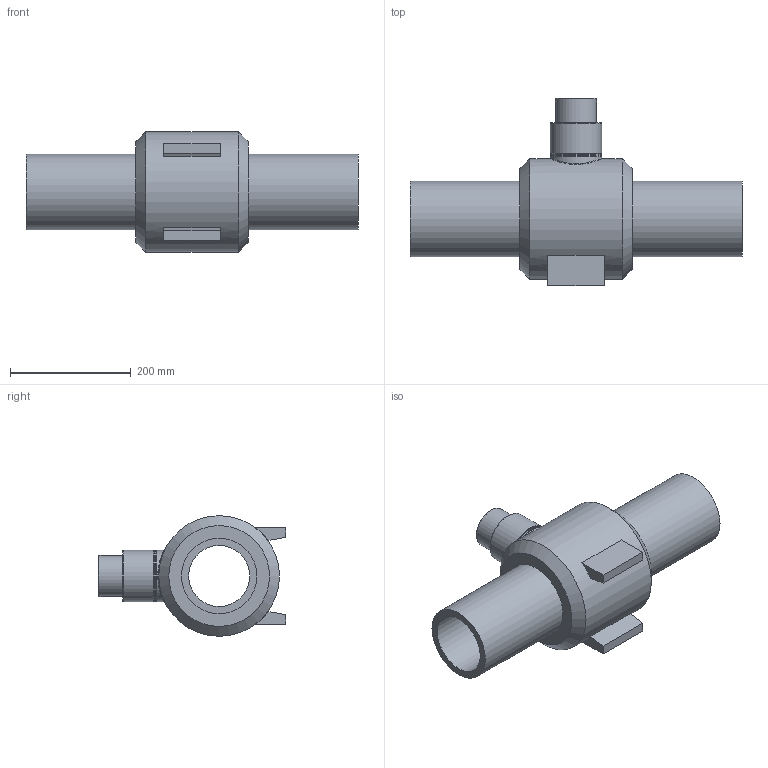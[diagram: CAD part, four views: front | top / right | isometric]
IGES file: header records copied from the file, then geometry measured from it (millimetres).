
Global section: file name: 436207125.ipt; native system: Autodesk Inventor 2015; preprocessor: unknown; author: Кирилл,,11,0; organization: 20170828.110610; date: 20171001.144238; units: millimetre
Bounding box: 550 x 310 x 200 mm (x, y, z)
Volume: 5292308.8 mm3; surface area: 534086.1 mm2
Topology: 1 solids, 1 shells, 33 faces, 81 edges, 54 vertices
Faces by surface type: plane 16, cylinder 7, cone 4, revolution 4, bspline 2
Full cylindrical faces by diameter (mm): 68 x1, 85 x3, 125 x2, 200 x1
